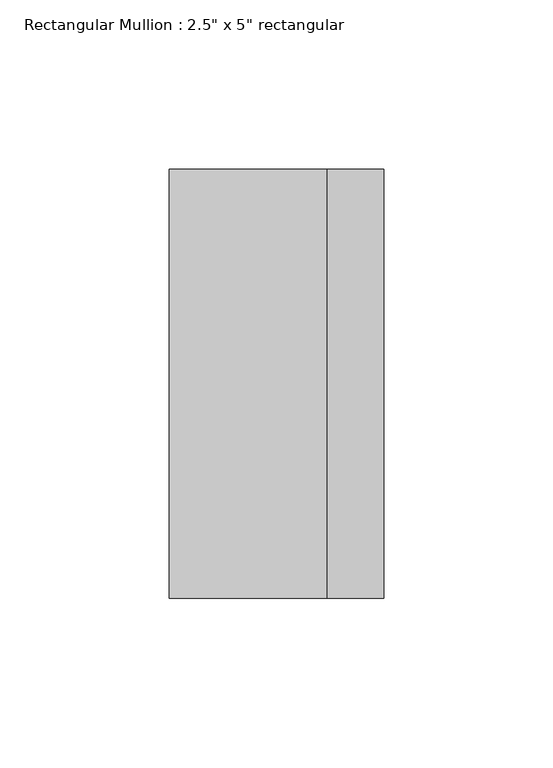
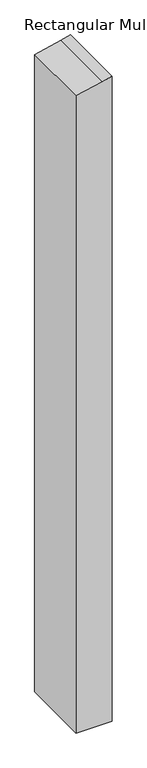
"""IFC4 building model written with IfcOpenShell, lengths in millimetres: member geometry."""

from ifc_helpers import new_model, si_unit, frame, origin, place, context, project, spatial, polyline, outline, extrude, source, transform, mapped, element, save


def member_7de1c936(model_context):
    return source(origin(), model_context, "Body", "SweptSolid", [
        extrude(outline(polyline([(-57.1134765, 31.75), (-61.7105541, 15.0846854), (-71.7091296, -31.75), (-1264.117617, -31.75), (-1264.117617, 31.75), (-57.1134765, 31.75)])), frame((0.0, -63.5, 0.0), z_axis=(0.0, 1.0, 0.0), x_axis=(0.0, 0.0, 1.0)), (0.0, 0.0, 1.0), 127.0),
    ])


if __name__ == "__main__":
    model = new_model("IFC4")
    model_context = context("Model", 3, world=origin())
    ifc_project = project(units=[si_unit("LENGTHUNIT", "METRE", prefix="MILLI")], contexts=[model_context])
    site = spatial("IfcSite", under=ifc_project)
    building = spatial("IfcBuilding", under=site)
    placement = place(None, origin())
    member_shape = member_7de1c936(model_context)
    element("IfcMember", 1, ObjectType="Rectangular Mullion : 2.5\" x 5\" rectangular", at=placement, inside=building, context=model_context, shape_type="MappedRepresentation", body=[
        mapped(member_shape, transform((0.0, 0.0, 0.0), x_axis=(1.0, 0.0, 0.0), y_axis=(0.0, 1.0, 0.0), z_axis=(0.0, 0.0, 1.0))),
    ])
    save(model, "model.ifc")
